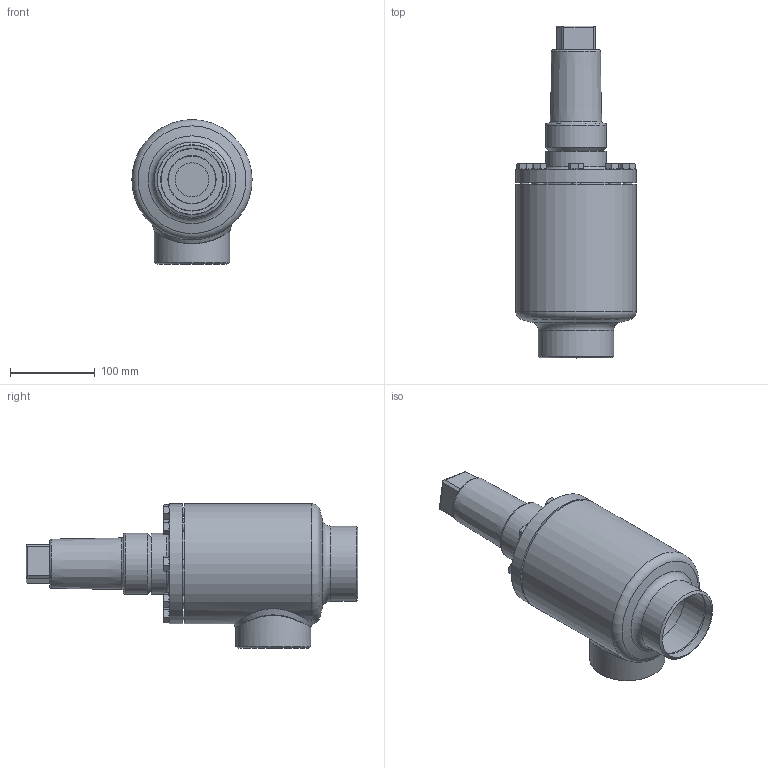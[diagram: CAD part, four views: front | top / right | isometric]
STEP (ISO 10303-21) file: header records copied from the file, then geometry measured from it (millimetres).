
FILE_DESCRIPTION(/* description */ (''),/* implementation_level */ '2;1');
FILE_NAME(/* name */ 'A:\Zeichnungsverwaltung\3D-Zeichnungen\Z-ZG\AVB\16400\18\AVB E AE 16400-080 PS40.stp',/* time_stamp */ '2020-10-28T13:32:45+01:00',/* author */ ('Nazzal.Yo'),/* organization */ (''),/* preprocessor_version */ 'ST-DEVELOPER v16.1',/* originating_system */ 'Autodesk Inventor 2016',/* authorisation */ '');
FILE_SCHEMA (('AUTOMOTIVE_DESIGN { 1 0 10303 214 3 1 1 }'));
Length unit declared in the file: millimetre
Products named in the file (9): 16400E18.5030001_Schweißnähte; A6400E18.5034004; 16400E18.5036004; 16400E18.5030001; Kappe16402_DN080-100_Standard; Sechskantschraube-DIN933_M10x 30; Deckel16300E18-DN80_Standard; AVB16300E18_Deck+Schr-DN80_Standard; AVB E AE 16400-080 PS40
Assembly tree (15 placements, depth 3):
  AVB E AE 16400-080 PS40
    16400E18.5030001
      16400E18.5030001_Schweißnähte
      A6400E18.5034004
      16400E18.5036004
    Kappe16402_DN080-100_Standard
    AVB16300E18_Deck+Schr-DN80_Standard
      Sechskantschraube-DIN933_M10x 30  x8
      Deckel16300E18-DN80_Standard
Bounding box: 142 x 392 x 171 mm (x, y, z)
Volume: 2046932.8 mm3; surface area: 327357.2 mm2
Topology: 13 solids, 13 shells, 297 faces, 631 edges, 381 vertices
Faces by surface type: cone 123, plane 100, cylinder 63, torus 9, bspline 2
Full cylindrical faces by diameter (mm): 8.376 x8, 10 x8, 11 x8, 25 x1, 33 x1, 35 x1, 40.1 x1, 54 x1, 56 x2, 57 x2, 60 x1, 72 x2, 72.5 x1, 73.1 x1, 74.1 x1, 81.7 x1, 82.5 x3, 83.5 x1, 86.5 x1, 88.9 x3, 94 x1, 98 x1, 106 x2, 142 x2
Entity records: 4473 total; most frequent: CARTESIAN_POINT 1576, DIRECTION 592, ORIENTED_EDGE 402, AXIS2_PLACEMENT_3D 281, EDGE_LOOP 248, EDGE_CURVE 201, VERTEX_POINT 165, FACE_OUTER_BOUND 136
